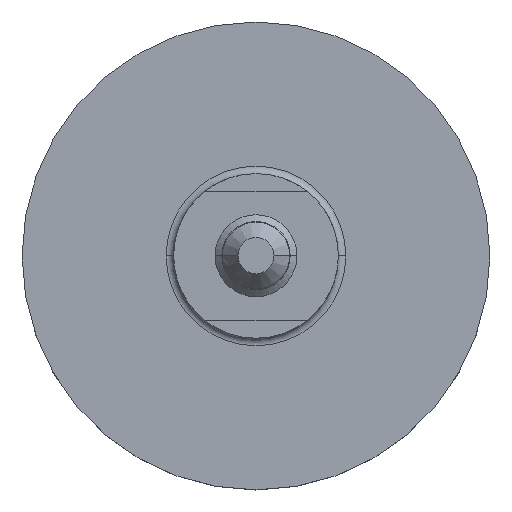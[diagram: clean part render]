
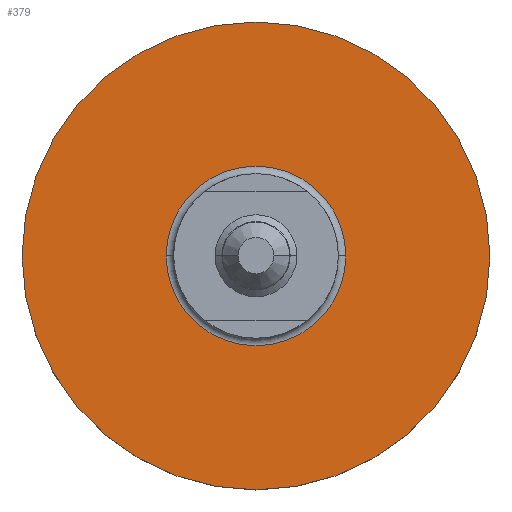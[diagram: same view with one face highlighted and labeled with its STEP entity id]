
A CAD part, top view. The second image highlights one B-rep face of the part: STEP entity #379.
In plain terms, the highlighted planar face has unit normal (0, 0, 1).
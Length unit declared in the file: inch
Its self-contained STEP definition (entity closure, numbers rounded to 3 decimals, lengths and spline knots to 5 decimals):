
#184 = VERTEX_POINT ( 'NONE', #931 ) ;
#189 = VERTEX_POINT ( 'NONE', #1138 ) ;
#243 = VERTEX_POINT ( 'NONE', #1072 ) ;
#245 = EDGE_CURVE ( 'NONE', #246, #243, #1067, .T. ) ;
#246 = VERTEX_POINT ( 'NONE', #1062 ) ;
#378 = EDGE_CURVE ( 'NONE', #184, #189, #1533, .T. ) ;
#379 = ADVANCED_FACE ( 'NONE', ( #1609, #1604 ), #1603, .F. ) ;
#380 = EDGE_LOOP ( 'NONE', ( #381, #383 ) ) ;
#381 = ORIENTED_EDGE ( 'NONE', *, *, #382, .T. ) ;
#382 = EDGE_CURVE ( 'NONE', #189, #184, #1571, .T. ) ;
#383 = ORIENTED_EDGE ( 'NONE', *, *, #378, .T. ) ;
#384 = EDGE_LOOP ( 'NONE', ( #385, #386 ) ) ;
#385 = ORIENTED_EDGE ( 'NONE', *, *, #245, .T. ) ;
#386 = ORIENTED_EDGE ( 'NONE', *, *, #629, .T. ) ;
#629 = EDGE_CURVE ( 'NONE', #243, #246, #1803, .T. ) ;
#931 = CARTESIAN_POINT ( 'NONE',  ( 0.48, 0., -0.391 ) ) ;
#1062 = CARTESIAN_POINT ( 'NONE',  ( 1.25, 0., -0.391 ) ) ;
#1063 = DIRECTION ( 'NONE',  ( 1., 0., 0. ) ) ;
#1064 = DIRECTION ( 'NONE',  ( 0., 0., 1. ) ) ;
#1065 = CARTESIAN_POINT ( 'NONE',  ( 0., 0., -0.391 ) ) ;
#1066 = AXIS2_PLACEMENT_3D ( 'NONE', #1065, #1064, #1063 ) ;
#1067 = CIRCLE ( 'NONE', #1066, 1.25 ) ;
#1072 = CARTESIAN_POINT ( 'NONE',  ( -1.25, 0., -0.391 ) ) ;
#1138 = CARTESIAN_POINT ( 'NONE',  ( -0.48, 0., -0.391 ) ) ;
#1533 = CIRCLE ( 'NONE', #1608, 0.48 ) ;
#1567 = DIRECTION ( 'NONE',  ( -1., 0., 0. ) ) ;
#1568 = DIRECTION ( 'NONE',  ( 0., 0., -1. ) ) ;
#1569 = CARTESIAN_POINT ( 'NONE',  ( 0., 0., -0.391 ) ) ;
#1570 = AXIS2_PLACEMENT_3D ( 'NONE', #1569, #1568, #1567 ) ;
#1571 = CIRCLE ( 'NONE', #1570, 0.48 ) ;
#1572 = DIRECTION ( 'NONE',  ( -1., 0., 0. ) ) ;
#1573 = DIRECTION ( 'NONE',  ( 0., 0., -1. ) ) ;
#1574 = CARTESIAN_POINT ( 'NONE',  ( 0., 0.44, -0.391 ) ) ;
#1575 = AXIS2_PLACEMENT_3D ( 'NONE', #1574, #1573, #1572 ) ;
#1603 = PLANE ( 'NONE',  #1575 ) ;
#1604 = FACE_OUTER_BOUND ( 'NONE', #384, .T. ) ;
#1605 = DIRECTION ( 'NONE',  ( -1., 0., 0. ) ) ;
#1606 = DIRECTION ( 'NONE',  ( 0., 0., -1. ) ) ;
#1607 = CARTESIAN_POINT ( 'NONE',  ( 0., 0., -0.391 ) ) ;
#1608 = AXIS2_PLACEMENT_3D ( 'NONE', #1607, #1606, #1605 ) ;
#1609 = FACE_BOUND ( 'NONE', #380, .T. ) ;
#1800 = DIRECTION ( 'NONE',  ( 1., 0., 0. ) ) ;
#1801 = DIRECTION ( 'NONE',  ( 0., 0., 1. ) ) ;
#1802 = AXIS2_PLACEMENT_3D ( 'NONE', #1808, #1801, #1800 ) ;
#1803 = CIRCLE ( 'NONE', #1802, 1.25 ) ;
#1808 = CARTESIAN_POINT ( 'NONE',  ( 0., 0., -0.391 ) ) ;
